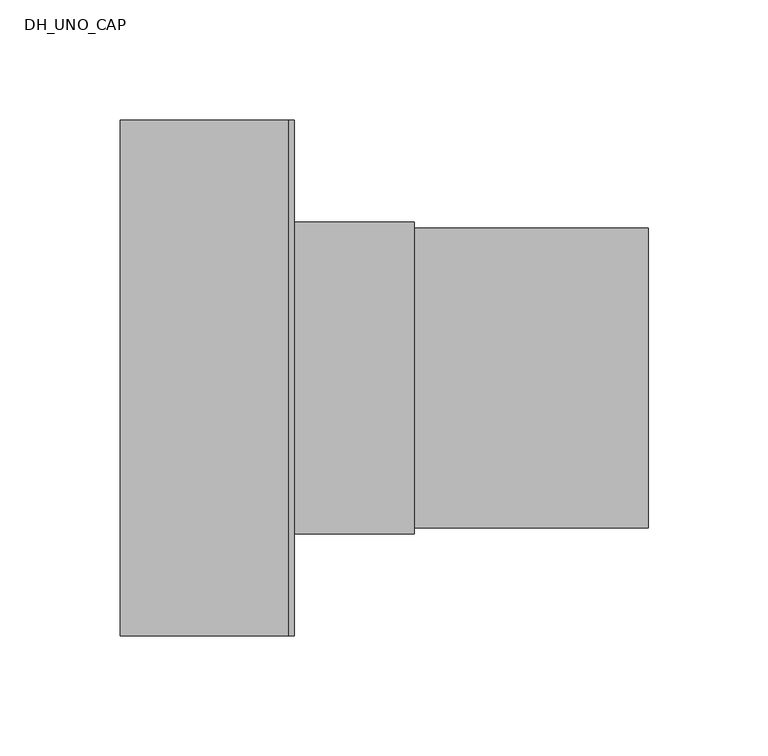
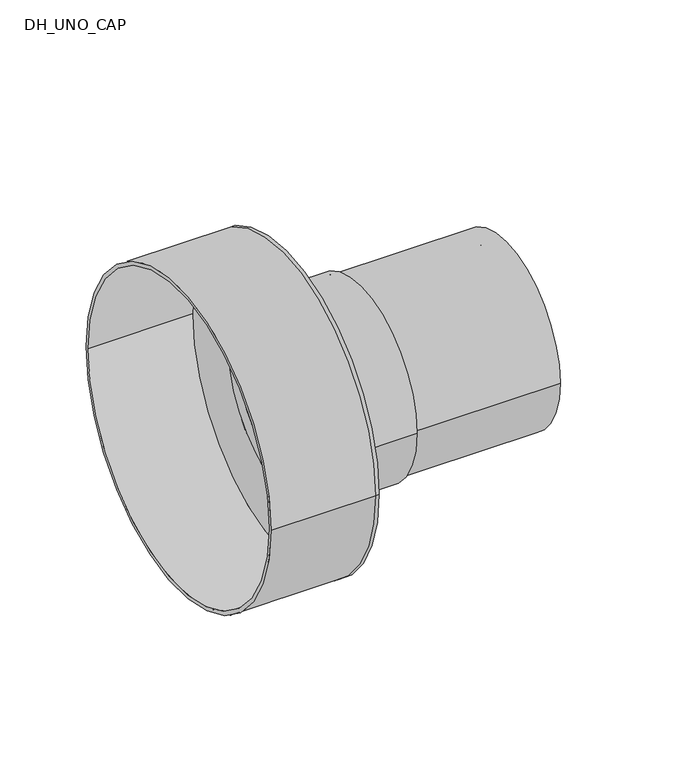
"""IFC4 building model written with IfcOpenShell, lengths in millimetres: pipe fitting geometry, DH_UNO_CAP : RAUVITHERM UNO 11 Heating - Rubber Cap."""

from ifc_helpers import new_model, si_unit, point, frame, origin, origin_2d, place, context, project, spatial, polyline, circle_curve, trimmed, segment, composite_curve, outline, extrude, source, transform, mapped, element, save
from ifc_brep_helpers import plane_surface, cylinder_surface, revolved_surface, advanced_brep


def dh_uno_cap_e9038ffe(model_context):
    return source(origin(), model_context, "Body", "SolidModel", [
        extrude(outline(composite_curve([segment(trimmed(circle_curve(origin_2d(), 62.5), [point((-62.5, 0.0))], [point((62.5, 0.0))], False, "CARTESIAN"), True, "CONTINUOUS"), segment(trimmed(circle_curve(origin_2d(), 62.5), [point((62.5, 0.0))], [point((-62.5, 0.0))], False, "CARTESIAN"), True, "CONTINUOUS")], self_intersect=False), holes=[composite_curve([segment(trimmed(circle_curve(origin_2d(), 51.1), [point((-51.1, 0.0))], [point((51.1, 0.0))], True, "CARTESIAN"), True, "CONTINUOUS"), segment(trimmed(circle_curve(origin_2d(), 51.1), [point((51.1, 0.0))], [point((-51.1, 0.0))], True, "CARTESIAN"), True, "CONTINUOUS")], self_intersect=False)]), frame((0.0, 0.0, 0.0), z_axis=(1.0, 0.0, 0.0), x_axis=(0.0, 1.0, 0.0)), (0.0, 0.0, 1.0), 150.0),
        advanced_brep(
        [(-70.0, -107.5, 0.0), (-70.0, 107.5, 0.0), (-70.0, -105.0, 0.0), (-70.0, 105.0, 0.0), (0.0, -105.0, 0.0), (0.0, 105.0, 0.0), (0.0, -107.5, 0.0), (0.0, 107.5, 0.0), (0.0, 62.5, 0.0), (0.0, -62.5, 0.0), (2.5, -107.5, 0.0), (2.5, 107.5, 0.0), (2.5, -62.5, 0.0), (2.5, 62.5, 0.0)],
        [
            (0, 1, circle_curve(frame((-70.0, 0.0, 0.0), z_axis=(-1.0, 0.0, 0.0), x_axis=(0.0, 1.0, 0.0)), 107.5)),
            (1, 0, circle_curve(frame((-70.0, 0.0, 0.0), z_axis=(-1.0, 0.0, 0.0), x_axis=(0.0, 1.0, 0.0)), 107.5)),
            (2, 3, circle_curve(frame((-70.0, 0.0, 0.0), z_axis=(1.0, 0.0, 0.0), x_axis=(0.0, 1.0, 0.0)), 105.0)),
            (3, 2, circle_curve(frame((-70.0, 0.0, 0.0), z_axis=(1.0, 0.0, 0.0), x_axis=(0.0, 1.0, 0.0)), 105.0)),
            (2, 4),
            (4, 5, circle_curve(frame((0.0, 0.0, 0.0), z_axis=(1.0, 0.0, 0.0), x_axis=(0.0, 1.0, 0.0)), 105.0)),
            (5, 3),
            (5, 4, circle_curve(frame((0.0, 0.0, 0.0), z_axis=(1.0, 0.0, 0.0), x_axis=(0.0, 1.0, 0.0)), 105.0)),
            (0, 6),
            (6, 7, circle_curve(frame((0.0, 0.0, 0.0), z_axis=(-1.0, 0.0, 0.0), x_axis=(0.0, 1.0, 0.0)), 107.5)),
            (7, 1),
            (7, 6, circle_curve(frame((0.0, 0.0, 0.0), z_axis=(-1.0, 0.0, 0.0), x_axis=(0.0, 1.0, 0.0)), 107.5)),
            (8, 9, circle_curve(frame((0.0, 0.0, 0.0), z_axis=(1.0, 0.0, 0.0), x_axis=(0.0, 1.0, 0.0)), 62.5)),
            (9, 8, circle_curve(frame((0.0, 0.0, 0.0), z_axis=(1.0, 0.0, 0.0), x_axis=(0.0, 1.0, 0.0)), 62.5)),
            (10, 11, circle_curve(frame((2.5, 0.0, 0.0), z_axis=(1.0, 0.0, 0.0), x_axis=(0.0, 1.0, 0.0)), 107.5)),
            (11, 10, circle_curve(frame((2.5, 0.0, 0.0), z_axis=(1.0, 0.0, 0.0), x_axis=(0.0, 1.0, 0.0)), 107.5)),
            (12, 13, circle_curve(frame((2.5, 0.0, 0.0), z_axis=(-1.0, 0.0, 0.0), x_axis=(0.0, 1.0, 0.0)), 62.5)),
            (13, 12, circle_curve(frame((2.5, 0.0, 0.0), z_axis=(-1.0, 0.0, 0.0), x_axis=(0.0, 1.0, 0.0)), 62.5)),
            (11, 7),
            (6, 10),
            (8, 13),
            (12, 9),
        ],
        [
            plane_surface(frame((-70.0, 0.0, 0.0), z_axis=(-1.0, 0.0, 0.0), x_axis=(0.0, 0.0, 1.0))),
            revolved_surface(polyline([(0.0, 105.0, 0.0), (-70.0, 105.0, 0.0)]), (-70.0, 0.0, 0.0), (1.0, 0.0, 0.0)),
            cylinder_surface(frame((-70.0, 0.0, 0.0), z_axis=(-1.0, 0.0, 0.0), x_axis=(0.0, 1.0, 0.0)), 107.5),
            plane_surface(frame((0.0, 0.0, 0.0), z_axis=(-1.0, 0.0, 0.0), x_axis=(0.0, 0.0, 1.0))),
            plane_surface(frame((2.5, 0.0, 0.0), z_axis=(1.0, 0.0, 0.0), x_axis=(0.0, 0.0, 1.0))),
            cylinder_surface(frame((0.0, 0.0, 0.0), z_axis=(-1.0, 0.0, 0.0), x_axis=(0.0, 1.0, 0.0)), 107.5),
            revolved_surface(polyline([(0.0, 62.5, 0.0), (2.5, 62.5, 0.0)]), (0.0, 0.0, 0.0), (-1.0, 0.0, 0.0)),
        ],
        [
            (0, [[1, 2], [3, 4]]),
            (1, [[-3, 5, 6, 7]]),
            (1, [[-4, -7, 8, -5]]),
            (2, [[-1, 9, 10, 11]]),
            (2, [[-2, -11, 12, -9]]),
            (3, [[-6, -8], [13, 14]]),
            (4, [[15, 16], [17, 18]]),
            (5, [[-16, 19, -10, 20]]),
            (5, [[-15, -20, -12, -19]]),
            (6, [[21, -17, 22, -13]]),
            (6, [[-21, -14, -22, -18]]),
        ],
    ),
        extrude(outline(composite_curve([segment(trimmed(circle_curve(origin_2d(), 65.0), [point((-65.0, 0.0))], [point((65.0, 0.0))], False, "CARTESIAN"), True, "CONTINUOUS"), segment(trimmed(circle_curve(origin_2d(), 65.0), [point((65.0, 0.0))], [point((-65.0, 0.0))], False, "CARTESIAN"), True, "CONTINUOUS")], self_intersect=False), holes=[composite_curve([segment(trimmed(circle_curve(origin_2d(), 62.5), [point((-62.5, 0.0))], [point((62.5, 0.0))], True, "CARTESIAN"), True, "CONTINUOUS"), segment(trimmed(circle_curve(origin_2d(), 62.5), [point((62.5, 0.0))], [point((-62.5, 0.0))], True, "CARTESIAN"), True, "CONTINUOUS")], self_intersect=False)]), frame((2.5, 0.0, 0.0), z_axis=(1.0, 0.0, 0.0), x_axis=(0.0, 1.0, 0.0)), (0.0, 0.0, 1.0), 50.0),
    ])


if __name__ == "__main__":
    model = new_model("IFC4")
    model_context = context("Model", 3, world=origin())
    ifc_project = project(units=[si_unit("LENGTHUNIT", "METRE", prefix="MILLI")], contexts=[model_context])
    site = spatial("IfcSite", under=ifc_project)
    building = spatial("IfcBuilding", under=site)
    placement = place(None, origin())
    dh_uno_cap_shape = dh_uno_cap_e9038ffe(model_context)
    element("IfcPipeFitting", 1, ObjectType="DH_UNO_CAP : RAUVITHERM UNO 11 Heating - Rubber Cap", at=placement, inside=building, context=model_context, shape_type="MappedRepresentation", body=[
        mapped(dh_uno_cap_shape, transform((0.0, 0.0, 0.0), x_axis=(1.0, 0.0, 0.0), y_axis=(0.0, 1.0, 0.0), z_axis=(0.0, 0.0, 1.0))),
    ])
    save(model, "model.ifc")
